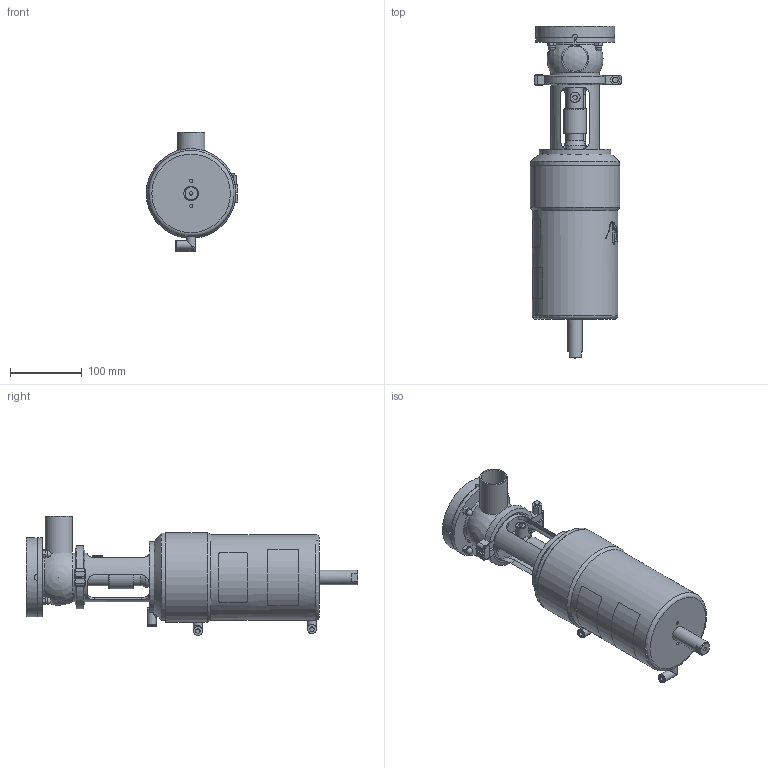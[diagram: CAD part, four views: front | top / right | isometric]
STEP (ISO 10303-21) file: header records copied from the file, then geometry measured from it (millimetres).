
FILE_DESCRIPTION (( 'STEP AP214' ), '1' );
FILE_NAME ('INNOVA T L W OD 1½ WITH FLANGE_10.252.16.0005.STEP', '2024-08-21T11:29:35', ( '' ), ( '' ), 'SwSTEP 2.0', 'SolidWorks 2023', '' );
FILE_SCHEMA (( 'AUTOMOTIVE_DESIGN' ));
Length unit declared in the file: millimetre
Products named in the file (6): 10.252.15.0001_OD 1½"; 10.240.15.0006_OD 1½"; INNOVA T L W OD 1½ WITH FLANGE_10.252.16.0005; 10.240.15.0001_DN 040; 10.248.15.0003_DIN 040 _ OD 1½"; 10.250.15.0002_Type T T1
Assembly tree (5 placements, depth 2):
  INNOVA T L W OD 1½ WITH FLANGE_10.252.16.0005
    10.240.15.0006_OD 1½"
    10.248.15.0003_DIN 040 _ OD 1½"
    10.252.15.0001_OD 1½"
    10.250.15.0002_Type T T1
    10.240.15.0001_DN 040
Bounding box: 127.5 x 462.47 x 166 mm (x, y, z)
Volume: 3281478 mm3; surface area: 268926.2 mm2
Topology: 5 solids, 5 shells, 417 faces, 1096 edges, 714 vertices
Faces by surface type: plane 200, cylinder 106, bspline 83, cone 21, sphere 6, torus 1
Full cylindrical faces by diameter (mm): 4.2 x2, 5 x1, 6 x1, 6.15 x3, 8 x2, 9.5 x4, 10.5 x3, 12 x1, 12.5 x9, 14 x2, 20 x1, 23 x2, 28 x1, 31.5 x1, 34.8 x1, 38.1 x1, 67.5 x2, 68 x1, 79.5 x3, 90 x1, 110 x1, 119.5 x1, 125 x1
Entity records: 22954 total; most frequent: CARTESIAN_POINT 11831, ORIENTED_EDGE 1984, DIRECTION 1587, EDGE_CURVE 992, VERTEX_POINT 685, AXIS2_PLACEMENT_3D 592, EDGE_LOOP 527, FACE_OUTER_BOUND 466
